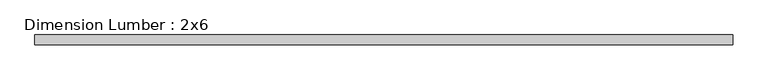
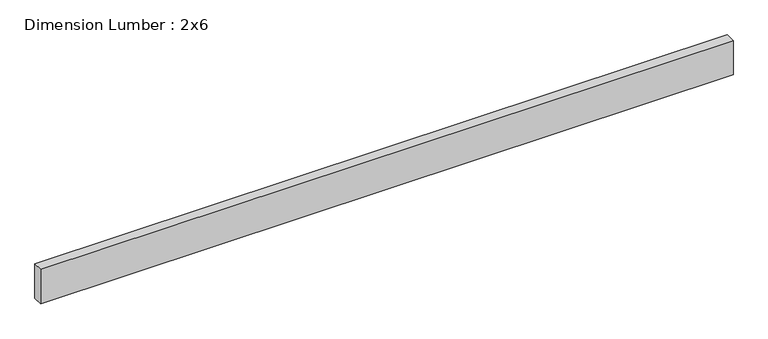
"""IFC4 building model written with IfcOpenShell, lengths in millimetres: beam geometry, Dimension Lumber : 2x6."""

from ifc_helpers import new_model, si_unit, frame, origin, place, context, project, spatial, polyline, outline, extrude, source, transform, mapped, element, save


def dimension_lumber_2x6_2847fc75(model_context):
    return source(origin(), model_context, "Body", "SweptSolid", [
        extrude(outline(polyline([(1332.9137095, 19.05), (1332.9137095, -19.05), (-1332.9137095, -19.05), (-1332.9137095, 19.05), (1332.9137095, 19.05)])), frame((0.0, 0.0, -69.85), z_axis=(0.0, 0.0, 1.0), x_axis=(1.0, 0.0, 0.0)), (0.0, 0.0, 1.0), 139.7),
    ])


if __name__ == "__main__":
    model = new_model("IFC4")
    model_context = context("Model", 3, world=origin())
    ifc_project = project(units=[si_unit("LENGTHUNIT", "METRE", prefix="MILLI")], contexts=[model_context])
    site = spatial("IfcSite", under=ifc_project)
    building = spatial("IfcBuilding", under=site)
    placement = place(None, origin())
    dimension_lumber_2x6_shape = dimension_lumber_2x6_2847fc75(model_context)
    element("IfcBeam", 1, ObjectType="Dimension Lumber : 2x6", at=placement, inside=building, context=model_context, shape_type="MappedRepresentation", body=[
        mapped(dimension_lumber_2x6_shape, transform((0.0, 0.0, 0.0), x_axis=(1.0, 0.0, 0.0), y_axis=(0.0, 1.0, 0.0), z_axis=(0.0, 0.0, 1.0))),
    ])
    save(model, "model.ifc")
